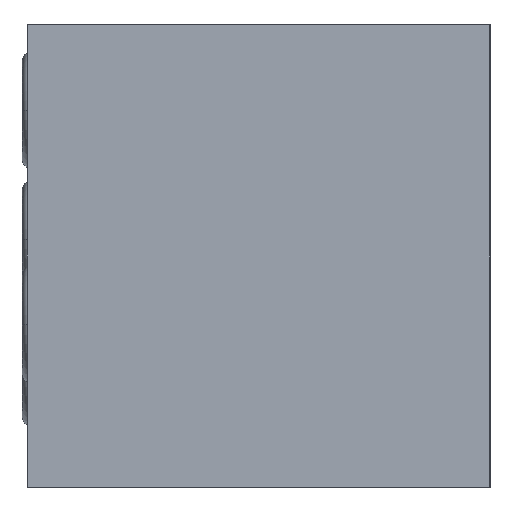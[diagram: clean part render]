
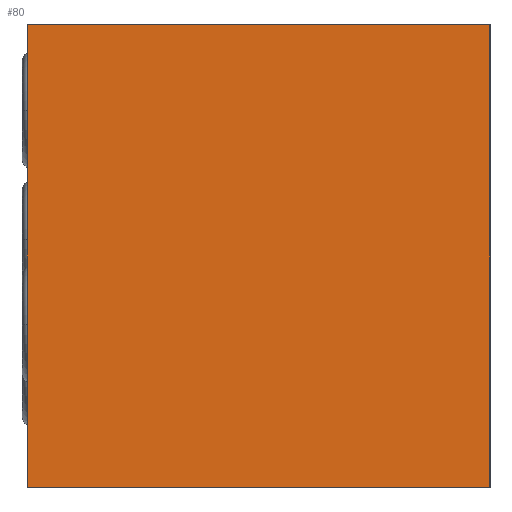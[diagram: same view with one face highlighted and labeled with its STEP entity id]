
A CAD part, left-side view. The second image highlights one B-rep face of the part: STEP entity #80.
In plain terms, the highlighted planar face has unit normal (-1, 0, 0).
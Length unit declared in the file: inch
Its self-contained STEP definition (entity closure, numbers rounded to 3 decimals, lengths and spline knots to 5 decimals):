
#1=DIRECTION('',(0.,-1.,0.));
#2=VECTOR('',#1,1.348);
#3=CARTESIAN_POINT('',(-2.375,0.674,0.674));
#4=LINE('',#3,#2);
#5=DIRECTION('',(0.,0.,-1.));
#6=VECTOR('',#5,1.348);
#7=CARTESIAN_POINT('',(-2.375,-0.674,0.674));
#8=LINE('',#7,#6);
#9=DIRECTION('',(0.,1.,0.));
#10=VECTOR('',#9,1.348);
#11=CARTESIAN_POINT('',(-2.375,-0.674,-0.674));
#12=LINE('',#11,#10);
#13=DIRECTION('',(0.,0.,1.));
#14=VECTOR('',#13,1.348);
#15=CARTESIAN_POINT('',(-2.375,0.674,-0.674));
#16=LINE('',#15,#14);
#49=CARTESIAN_POINT('',(-2.375,0.674,0.674));
#50=CARTESIAN_POINT('',(-2.375,-0.674,0.674));
#51=VERTEX_POINT('',#49);
#52=VERTEX_POINT('',#50);
#53=CARTESIAN_POINT('',(-2.375,-0.674,-0.674));
#54=VERTEX_POINT('',#53);
#55=CARTESIAN_POINT('',(-2.375,0.674,-0.674));
#56=VERTEX_POINT('',#55);
#65=CARTESIAN_POINT('',(-2.375,0.,0.));
#66=DIRECTION('',(1.,0.,0.));
#67=DIRECTION('',(0.,0.,-1.));
#68=AXIS2_PLACEMENT_3D('',#65,#66,#67);
#69=PLANE('',#68);
#71=ORIENTED_EDGE('',*,*,#70,.T.);
#73=ORIENTED_EDGE('',*,*,#72,.T.);
#75=ORIENTED_EDGE('',*,*,#74,.T.);
#77=ORIENTED_EDGE('',*,*,#76,.T.);
#78=EDGE_LOOP('',(#71,#73,#75,#77));
#79=FACE_OUTER_BOUND('',#78,.F.);
#80=ADVANCED_FACE('',(#79),#69,.F.);
#70=EDGE_CURVE('',#51,#52,#4,.T.);
#72=EDGE_CURVE('',#52,#54,#8,.T.);
#74=EDGE_CURVE('',#54,#56,#12,.T.);
#76=EDGE_CURVE('',#56,#51,#16,.T.);
